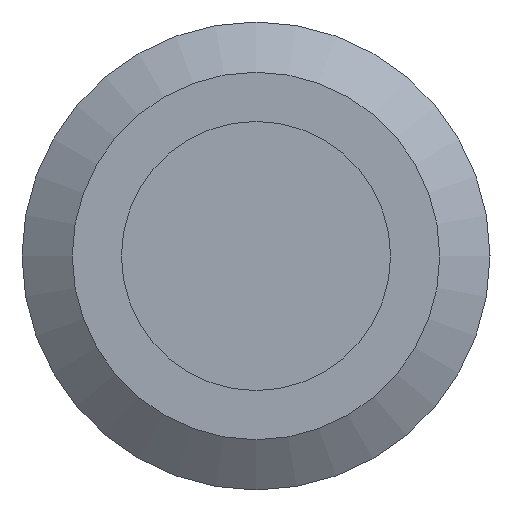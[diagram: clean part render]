
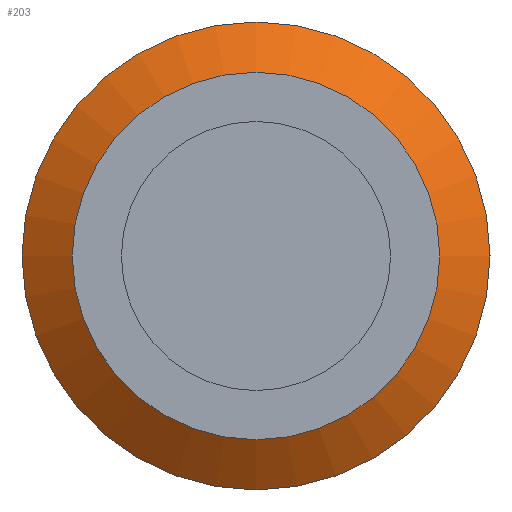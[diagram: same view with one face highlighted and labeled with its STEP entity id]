
A CAD part, left-side view. The second image highlights one B-rep face of the part: STEP entity #203.
In plain terms, the highlighted conical face has half-angle 55.066 degrees and reference radius 1.571 mm.
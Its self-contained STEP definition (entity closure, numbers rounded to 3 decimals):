
#20=CONICAL_SURFACE('',#222,1.571,0.961);
#31=ORIENTED_EDGE('',*,*,#49,.F.);
#32=ORIENTED_EDGE('',*,*,#48,.T.);
#48=EDGE_CURVE('',#58,#58,#68,.T.);
#49=EDGE_CURVE('',#59,#59,#69,.T.);
#58=VERTEX_POINT('',#290);
#59=VERTEX_POINT('',#293);
#68=CIRCLE('',#221,1.571);
#69=CIRCLE('',#223,2.);
#81=EDGE_LOOP('',(#31));
#82=EDGE_LOOP('',(#32));
#101=FACE_BOUND('',#81,.T.);
#102=FACE_BOUND('',#82,.T.);
#203=ADVANCED_FACE('',(#101,#102),#20,.T.);
#221=AXIS2_PLACEMENT_3D('',#289,#249,#250);
#222=AXIS2_PLACEMENT_3D('',#291,#251,#252);
#223=AXIS2_PLACEMENT_3D('',#292,#253,#254);
#249=DIRECTION('',(1.,0.,0.));
#250=DIRECTION('',(0.,0.,-1.));
#251=DIRECTION('',(1.,0.,0.));
#252=DIRECTION('',(0.,0.,-1.));
#253=DIRECTION('',(1.,0.,0.));
#254=DIRECTION('',(0.,0.,-1.));
#289=CARTESIAN_POINT('',(0.,0.,0.));
#290=CARTESIAN_POINT('',(0.,0.,-1.571));
#291=CARTESIAN_POINT('',(0.,0.,0.));
#292=CARTESIAN_POINT('',(0.3,0.,0.));
#293=CARTESIAN_POINT('',(0.3,0.,-2.));
